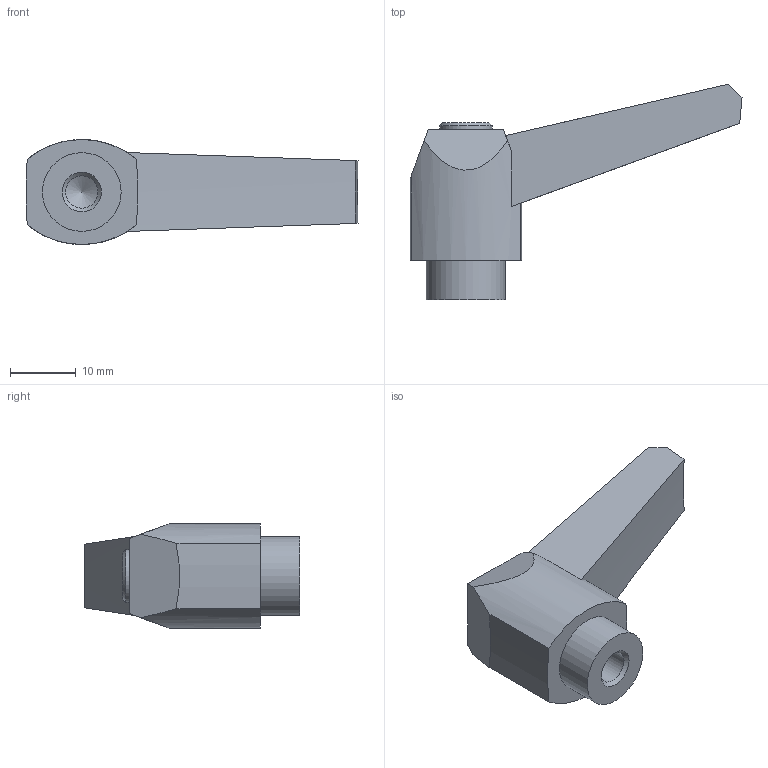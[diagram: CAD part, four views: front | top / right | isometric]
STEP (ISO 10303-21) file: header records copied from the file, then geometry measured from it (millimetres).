
FILE_DESCRIPTION( ( 'STEP AP203' ), '1' );
FILE_NAME( 'C:/Temp/Ganter_Step_05_03_2020/data/2_1/gn_500/gn_500_mb/Adjustable hand lever GN 500-42-M6-SW.stp', '2020-03-05T11:26:28', ( 'License CC BY-ND 4.0' ), ( 'CADENAS' ), ' ', 'PARTsolutions', ' ' );
FILE_SCHEMA( ( 'CONFIG_CONTROL_DESIGN' ) );
Length unit declared in the file: millimetre
Products named in the file (1): _Adjustable hand lever GN 500-42-M6-SW
Bounding box: 50.59 x 32.85 x 16 mm (x, y, z)
Volume: 8088.1 mm3; surface area: 3195.9 mm2
Topology: 1 solids, 1 shells, 24 faces, 58 edges, 38 vertices
Faces by surface type: plane 10, cone 7, cylinder 7
Full cylindrical faces by diameter (mm): 4.917 x1, 8 x1, 12 x1
Entity records: 712 total; most frequent: CARTESIAN_POINT 124, DIRECTION 118, ORIENTED_EDGE 100, EDGE_CURVE 50, AXIS2_PLACEMENT_3D 47, VERTEX_POINT 37, EDGE_LOOP 32, FACE_OUTER_BOUND 27
